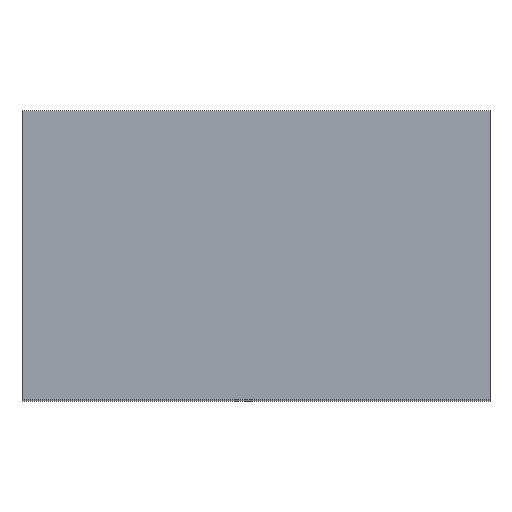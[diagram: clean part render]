
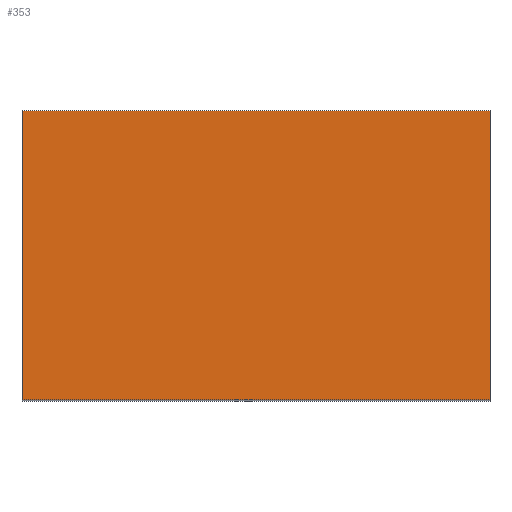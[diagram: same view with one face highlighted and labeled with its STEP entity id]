
A CAD part, top view. The second image highlights one B-rep face of the part: STEP entity #353.
In plain terms, the highlighted planar face has unit normal (0, 0, 1).
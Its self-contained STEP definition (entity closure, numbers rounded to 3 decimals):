
#39 = VERTEX_POINT('',#40);
#40 = CARTESIAN_POINT('',(-0.45,1.05,5.4));
#47 = PLANE('',#48);
#48 = AXIS2_PLACEMENT_3D('',#49,#50,#51);
#49 = CARTESIAN_POINT('',(-0.45,1.05,0.));
#50 = DIRECTION('',(0.,1.,0.));
#51 = DIRECTION('',(1.,0.,0.));
#59 = PLANE('',#60);
#60 = AXIS2_PLACEMENT_3D('',#61,#62,#63);
#61 = CARTESIAN_POINT('',(-0.45,-1.05,0.));
#62 = DIRECTION('',(-1.,0.,0.));
#63 = DIRECTION('',(0.,1.,0.));
#71 = EDGE_CURVE('',#39,#72,#74,.T.);
#72 = VERTEX_POINT('',#73);
#73 = CARTESIAN_POINT('',(2.95,1.05,5.4));
#74 = SURFACE_CURVE('',#75,(#79,#86),.PCURVE_S1.);
#75 = LINE('',#76,#77);
#76 = CARTESIAN_POINT('',(-0.45,1.05,5.4));
#77 = VECTOR('',#78,1.);
#78 = DIRECTION('',(1.,0.,0.));
#79 = PCURVE('',#47,#80);
#80 = DEFINITIONAL_REPRESENTATION('',(#81),#85);
#81 = LINE('',#82,#83);
#82 = CARTESIAN_POINT('',(0.,-5.4));
#83 = VECTOR('',#84,1.);
#84 = DIRECTION('',(1.,0.));
#85 = ( GEOMETRIC_REPRESENTATION_CONTEXT(2) 
PARAMETRIC_REPRESENTATION_CONTEXT() REPRESENTATION_CONTEXT('2D SPACE',''
  ) );
#86 = PCURVE('',#87,#92);
#87 = PLANE('',#88);
#88 = AXIS2_PLACEMENT_3D('',#89,#90,#91);
#89 = CARTESIAN_POINT('',(1.25,0.,5.4));
#90 = DIRECTION('',(0.,0.,-1.));
#91 = DIRECTION('',(-1.,0.,0.));
#92 = DEFINITIONAL_REPRESENTATION('',(#93),#97);
#93 = LINE('',#94,#95);
#94 = CARTESIAN_POINT('',(1.7,1.05));
#95 = VECTOR('',#96,1.);
#96 = DIRECTION('',(-1.,0.));
#97 = ( GEOMETRIC_REPRESENTATION_CONTEXT(2) 
PARAMETRIC_REPRESENTATION_CONTEXT() REPRESENTATION_CONTEXT('2D SPACE',''
  ) );
#115 = PLANE('',#116);
#116 = AXIS2_PLACEMENT_3D('',#117,#118,#119);
#117 = CARTESIAN_POINT('',(2.95,1.05,0.));
#118 = DIRECTION('',(1.,0.,-0.));
#119 = DIRECTION('',(0.,-1.,0.));
#157 = EDGE_CURVE('',#72,#158,#160,.T.);
#158 = VERTEX_POINT('',#159);
#159 = CARTESIAN_POINT('',(2.95,-1.05,5.4));
#160 = SURFACE_CURVE('',#161,(#165,#172),.PCURVE_S1.);
#161 = LINE('',#162,#163);
#162 = CARTESIAN_POINT('',(2.95,1.05,5.4));
#163 = VECTOR('',#164,1.);
#164 = DIRECTION('',(0.,-1.,0.));
#165 = PCURVE('',#115,#166);
#166 = DEFINITIONAL_REPRESENTATION('',(#167),#171);
#167 = LINE('',#168,#169);
#168 = CARTESIAN_POINT('',(0.,-5.4));
#169 = VECTOR('',#170,1.);
#170 = DIRECTION('',(1.,0.));
#171 = ( GEOMETRIC_REPRESENTATION_CONTEXT(2) 
PARAMETRIC_REPRESENTATION_CONTEXT() REPRESENTATION_CONTEXT('2D SPACE',''
  ) );
#172 = PCURVE('',#87,#173);
#173 = DEFINITIONAL_REPRESENTATION('',(#174),#178);
#174 = LINE('',#175,#176);
#175 = CARTESIAN_POINT('',(-1.7,1.05));
#176 = VECTOR('',#177,1.);
#177 = DIRECTION('',(0.,-1.));
#178 = ( GEOMETRIC_REPRESENTATION_CONTEXT(2) 
PARAMETRIC_REPRESENTATION_CONTEXT() REPRESENTATION_CONTEXT('2D SPACE',''
  ) );
#196 = PLANE('',#197);
#197 = AXIS2_PLACEMENT_3D('',#198,#199,#200);
#198 = CARTESIAN_POINT('',(2.95,-1.05,0.));
#199 = DIRECTION('',(0.,-1.,0.));
#200 = DIRECTION('',(-1.,0.,0.));
#233 = EDGE_CURVE('',#158,#234,#236,.T.);
#234 = VERTEX_POINT('',#235);
#235 = CARTESIAN_POINT('',(-0.45,-1.05,5.4));
#236 = SURFACE_CURVE('',#237,(#241,#248),.PCURVE_S1.);
#237 = LINE('',#238,#239);
#238 = CARTESIAN_POINT('',(2.95,-1.05,5.4));
#239 = VECTOR('',#240,1.);
#240 = DIRECTION('',(-1.,0.,0.));
#241 = PCURVE('',#196,#242);
#242 = DEFINITIONAL_REPRESENTATION('',(#243),#247);
#243 = LINE('',#244,#245);
#244 = CARTESIAN_POINT('',(0.,-5.4));
#245 = VECTOR('',#246,1.);
#246 = DIRECTION('',(1.,0.));
#247 = ( GEOMETRIC_REPRESENTATION_CONTEXT(2) 
PARAMETRIC_REPRESENTATION_CONTEXT() REPRESENTATION_CONTEXT('2D SPACE',''
  ) );
#248 = PCURVE('',#87,#249);
#249 = DEFINITIONAL_REPRESENTATION('',(#250),#254);
#250 = LINE('',#251,#252);
#251 = CARTESIAN_POINT('',(-1.7,-1.05));
#252 = VECTOR('',#253,1.);
#253 = DIRECTION('',(1.,0.));
#254 = ( GEOMETRIC_REPRESENTATION_CONTEXT(2) 
PARAMETRIC_REPRESENTATION_CONTEXT() REPRESENTATION_CONTEXT('2D SPACE',''
  ) );
#304 = EDGE_CURVE('',#234,#39,#305,.T.);
#305 = SURFACE_CURVE('',#306,(#310,#317),.PCURVE_S1.);
#306 = LINE('',#307,#308);
#307 = CARTESIAN_POINT('',(-0.45,-1.05,5.4));
#308 = VECTOR('',#309,1.);
#309 = DIRECTION('',(0.,1.,0.));
#310 = PCURVE('',#59,#311);
#311 = DEFINITIONAL_REPRESENTATION('',(#312),#316);
#312 = LINE('',#313,#314);
#313 = CARTESIAN_POINT('',(0.,-5.4));
#314 = VECTOR('',#315,1.);
#315 = DIRECTION('',(1.,0.));
#316 = ( GEOMETRIC_REPRESENTATION_CONTEXT(2) 
PARAMETRIC_REPRESENTATION_CONTEXT() REPRESENTATION_CONTEXT('2D SPACE',''
  ) );
#317 = PCURVE('',#87,#318);
#318 = DEFINITIONAL_REPRESENTATION('',(#319),#323);
#319 = LINE('',#320,#321);
#320 = CARTESIAN_POINT('',(1.7,-1.05));
#321 = VECTOR('',#322,1.);
#322 = DIRECTION('',(0.,1.));
#323 = ( GEOMETRIC_REPRESENTATION_CONTEXT(2) 
PARAMETRIC_REPRESENTATION_CONTEXT() REPRESENTATION_CONTEXT('2D SPACE',''
  ) );
#353 = ADVANCED_FACE('',(#354),#87,.F.);
#354 = FACE_BOUND('',#355,.F.);
#355 = EDGE_LOOP('',(#356,#357,#358,#359));
#356 = ORIENTED_EDGE('',*,*,#71,.T.);
#357 = ORIENTED_EDGE('',*,*,#157,.T.);
#358 = ORIENTED_EDGE('',*,*,#233,.T.);
#359 = ORIENTED_EDGE('',*,*,#304,.T.);
